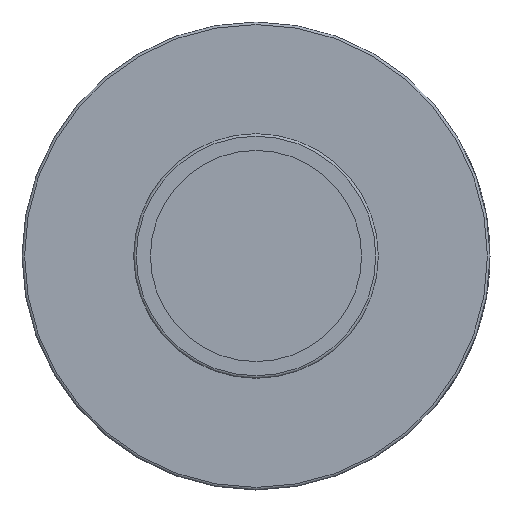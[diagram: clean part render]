
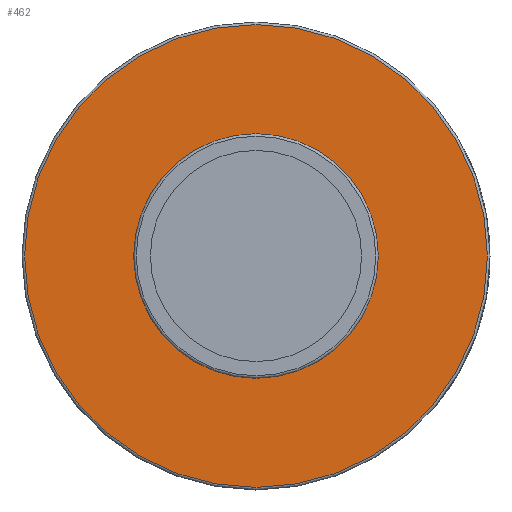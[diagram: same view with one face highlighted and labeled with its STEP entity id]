
A CAD part, left-side view. The second image highlights one B-rep face of the part: STEP entity #462.
In plain terms, the highlighted planar face has unit normal (-1, 0, 0).
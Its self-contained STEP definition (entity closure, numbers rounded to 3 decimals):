
#462 = ADVANCED_FACE( '', ( #1033, #1034 ), #1035, .T. );
#1033 = FACE_OUTER_BOUND( '', #2427, .T. );
#1034 = FACE_BOUND( '', #2428, .T. );
#1035 = PLANE( '', #2429 );
#2427 = EDGE_LOOP( '', ( #4084 ) );
#2428 = EDGE_LOOP( '', ( #4085 ) );
#2429 = AXIS2_PLACEMENT_3D( '', #4086, #4087, #4088 );
#4084 = ORIENTED_EDGE( '', *, *, #5355, .T. );
#4085 = ORIENTED_EDGE( '', *, *, #5076, .F. );
#4086 = CARTESIAN_POINT( '', ( 26.111, 0., 45.53 ) );
#4087 = DIRECTION( '', ( -1., 0., 0. ) );
#4088 = DIRECTION( '', ( 0., 0., 1. ) );
#5076 = EDGE_CURVE( '', #5863, #5863, #5864, .T. );
#5355 = EDGE_CURVE( '', #6319, #6319, #6320, .T. );
#5863 = VERTEX_POINT( '', #7124 );
#5864 = CIRCLE( '', #7125, 24.067 );
#6319 = VERTEX_POINT( '', #8243 );
#6320 = CIRCLE( '', #8244, 45.53 );
#7124 = CARTESIAN_POINT( '', ( 26.111, 0., 24.067 ) );
#7125 = AXIS2_PLACEMENT_3D( '', #9510, #9511, #9512 );
#8243 = CARTESIAN_POINT( '', ( 26.111, 0., 45.53 ) );
#8244 = AXIS2_PLACEMENT_3D( '', #9543, #9544, #9545 );
#9510 = CARTESIAN_POINT( '', ( 26.111, 0., 0. ) );
#9511 = DIRECTION( '', ( -1., 0., 0. ) );
#9512 = DIRECTION( '', ( 0., 0., 1. ) );
#9543 = CARTESIAN_POINT( '', ( 26.111, 0., 0. ) );
#9544 = DIRECTION( '', ( -1., 0., 0. ) );
#9545 = DIRECTION( '', ( 0., 0., 1. ) );
